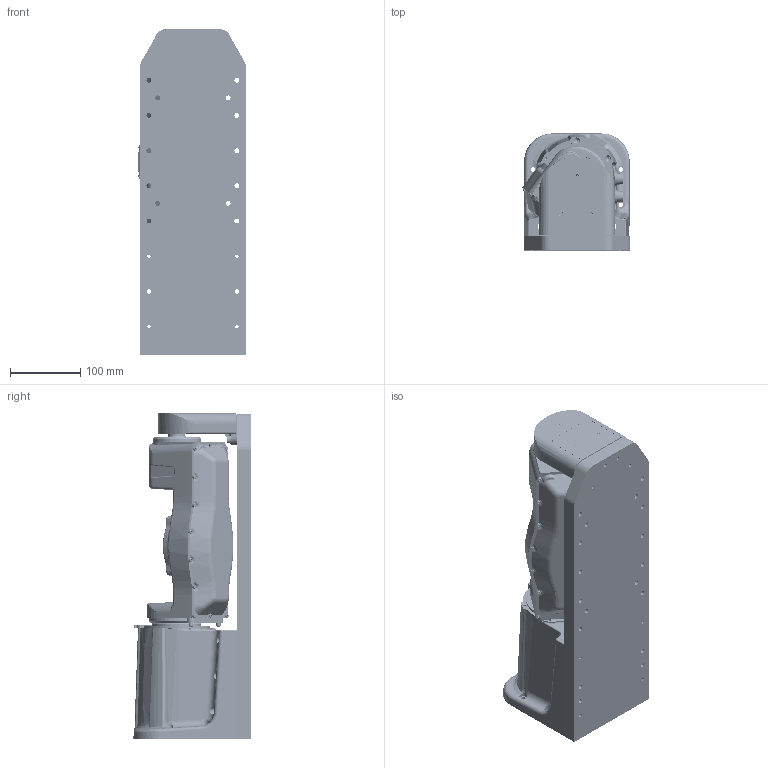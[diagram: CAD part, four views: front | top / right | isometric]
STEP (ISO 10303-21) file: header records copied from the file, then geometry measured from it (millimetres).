
FILE_DESCRIPTION (( 'STEP AP203' ), '1' );
FILE_NAME ('Drehschwenkeinheit DSH-S - Schritt - 265410 0000.STEP', '2010-04-07T06:50:08', ( 'HI' ), ( '' ), 'SwSTEP 2.0', 'SolidWorks 2009', '' );
FILE_SCHEMA (( 'CONFIG_CONTROL_DESIGN' ));
Length unit declared in the file: millimetre
Products named in the file (3): Drehschwenkeinheit DSH-S - Schritt - 265410 0000; RDH-S mit Platte - Anschluss 2x M16; R5H-S - Schwenk - Schritt
Assembly tree (2 placements, depth 2):
  Drehschwenkeinheit DSH-S - Schritt - 265410 0000
    RDH-S mit Platte - Anschluss 2x M16
    R5H-S - Schwenk - Schritt
Bounding box: 152.57 x 166.5 x 462.5 mm (x, y, z)
Volume: 3458193.3 mm3; surface area: 790862.4 mm2
Topology: 120 solids, 121 shells, 5055 faces, 11825 edges, 7008 vertices
Faces by surface type: cylinder 1760, plane 1671, cone 698, torus 417, bspline 411, sphere 98
Entity records: 166076 total; most frequent: CARTESIAN_POINT 53512, DIRECTION 24084, ORIENTED_EDGE 22652, EDGE_CURVE 11326, AXIS2_PLACEMENT_3D 9526, VERTEX_POINT 6932, EDGE_LOOP 5868, ADVANCED_FACE 5054
